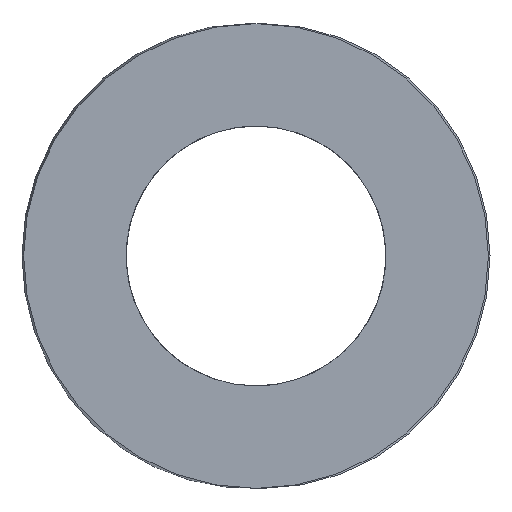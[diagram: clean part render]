
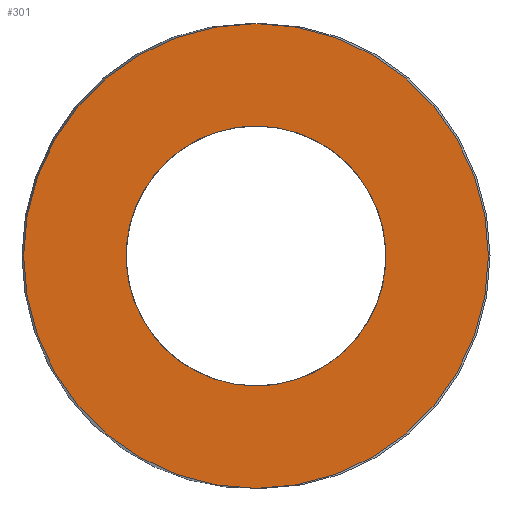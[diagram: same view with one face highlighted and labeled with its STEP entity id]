
A CAD part, left-side view. The second image highlights one B-rep face of the part: STEP entity #301.
In plain terms, the highlighted planar face has unit normal (-1, 0, 0).
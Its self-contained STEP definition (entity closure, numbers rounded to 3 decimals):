
#63=CARTESIAN_POINT('Vertex',(0.,12.25,0.)) ;
#77=CARTESIAN_POINT('Vertex',(0.,-12.25,0.)) ;
#80=CARTESIAN_POINT('Axis2P3D Location',(0.,0.,0.)) ;
#97=CARTESIAN_POINT('Axis2P3D Location',(0.,0.,0.)) ;
#232=CARTESIAN_POINT('Axis2P3D Location',(0.,6.125,0.)) ;
#242=CARTESIAN_POINT('Control Point',(0.,0.,-6.85)) ;
#243=CARTESIAN_POINT('Control Point',(0.,0.641,-6.85)) ;
#244=CARTESIAN_POINT('Control Point',(0.,1.282,-6.775)) ;
#245=CARTESIAN_POINT('Control Point',(0.,1.912,-6.625)) ;
#246=CARTESIAN_POINT('Control Point',(0.,3.124,-6.181)) ;
#247=CARTESIAN_POINT('Control Point',(0.,4.2,-5.468)) ;
#248=CARTESIAN_POINT('Control Point',(0.,4.694,-5.051)) ;
#249=CARTESIAN_POINT('Control Point',(0.,5.576,-4.107)) ;
#250=CARTESIAN_POINT('Control Point',(0.,6.215,-2.986)) ;
#251=CARTESIAN_POINT('Control Point',(0.,6.468,-2.39)) ;
#252=CARTESIAN_POINT('Control Point',(0.,6.829,-1.151)) ;
#253=CARTESIAN_POINT('Control Point',(0.,6.894,0.139)) ;
#254=CARTESIAN_POINT('Control Point',(0.,6.851,0.784)) ;
#255=CARTESIAN_POINT('Control Point',(0.,6.614,2.053)) ;
#256=CARTESIAN_POINT('Control Point',(0.,6.09,3.233)) ;
#257=CARTESIAN_POINT('Control Point',(0.,5.76,3.79)) ;
#258=CARTESIAN_POINT('Control Point',(0.,4.977,4.816)) ;
#259=CARTESIAN_POINT('Control Point',(0.,3.977,5.633)) ;
#260=CARTESIAN_POINT('Control Point',(0.,3.432,5.981)) ;
#261=CARTESIAN_POINT('Control Point',(0.,2.436,6.462)) ;
#262=CARTESIAN_POINT('Control Point',(0.,1.368,6.735)) ;
#263=CARTESIAN_POINT('Control Point',(0.,0.915,6.812)) ;
#264=CARTESIAN_POINT('Control Point',(0.,0.457,6.85)) ;
#265=CARTESIAN_POINT('Control Point',(0.,0.,6.85)) ;
#266=CARTESIAN_POINT('Vertex',(0.,0.,-6.85)) ;
#268=CARTESIAN_POINT('Vertex',(0.,0.,6.85)) ;
#272=CARTESIAN_POINT('Control Point',(0.,0.,6.85)) ;
#273=CARTESIAN_POINT('Control Point',(0.,-0.641,6.85)) ;
#274=CARTESIAN_POINT('Control Point',(0.,-1.282,6.775)) ;
#275=CARTESIAN_POINT('Control Point',(0.,-1.912,6.625)) ;
#276=CARTESIAN_POINT('Control Point',(0.,-3.124,6.181)) ;
#277=CARTESIAN_POINT('Control Point',(0.,-4.2,5.468)) ;
#278=CARTESIAN_POINT('Control Point',(0.,-4.694,5.051)) ;
#279=CARTESIAN_POINT('Control Point',(0.,-5.576,4.107)) ;
#280=CARTESIAN_POINT('Control Point',(0.,-6.215,2.986)) ;
#281=CARTESIAN_POINT('Control Point',(0.,-6.468,2.39)) ;
#282=CARTESIAN_POINT('Control Point',(0.,-6.829,1.151)) ;
#283=CARTESIAN_POINT('Control Point',(0.,-6.894,-0.139)) ;
#284=CARTESIAN_POINT('Control Point',(0.,-6.851,-0.784)) ;
#285=CARTESIAN_POINT('Control Point',(0.,-6.614,-2.053)) ;
#286=CARTESIAN_POINT('Control Point',(0.,-6.09,-3.233)) ;
#287=CARTESIAN_POINT('Control Point',(0.,-5.76,-3.79)) ;
#288=CARTESIAN_POINT('Control Point',(0.,-4.977,-4.816)) ;
#289=CARTESIAN_POINT('Control Point',(0.,-3.977,-5.633)) ;
#290=CARTESIAN_POINT('Control Point',(0.,-3.432,-5.981)) ;
#291=CARTESIAN_POINT('Control Point',(0.,-2.436,-6.462)) ;
#292=CARTESIAN_POINT('Control Point',(0.,-1.368,-6.735)) ;
#293=CARTESIAN_POINT('Control Point',(0.,-0.915,-6.812)) ;
#294=CARTESIAN_POINT('Control Point',(0.,-0.457,-6.85)) ;
#295=CARTESIAN_POINT('Control Point',(0.,0.,-6.85)) ;
#81=DIRECTION('Axis2P3D Direction',(1.,-0.,0.)) ;
#98=DIRECTION('Axis2P3D Direction',(1.,-0.,0.)) ;
#233=DIRECTION('Axis2P3D Direction',(-1.,0.,0.)) ;
#234=DIRECTION('Axis2P3D XDirection',(0.,1.,0.)) ;
#82=AXIS2_PLACEMENT_3D('Circle Axis2P3D',#80,#81,$) ;
#99=AXIS2_PLACEMENT_3D('Circle Axis2P3D',#97,#98,$) ;
#235=AXIS2_PLACEMENT_3D('Plane Axis2P3D',#232,#233,#234) ;
#238=ORIENTED_EDGE('',*,*,#84,.T.) ;
#239=ORIENTED_EDGE('',*,*,#101,.T.) ;
#298=ORIENTED_EDGE('',*,*,#270,.T.) ;
#299=ORIENTED_EDGE('',*,*,#296,.T.) ;
#300=FACE_BOUND('',#297,.T.) ;
#301=ADVANCED_FACE('392-B25-032',(#240,#300),#236,.T.) ;
#241=B_SPLINE_CURVE_WITH_KNOTS('',5,(#242,#243,#244,#245,#246,#247,#248,#249,#250,#251,#252,#253,#254,#255,#256,#257,#258,#259,#260,#261,#262,#263,#264,#265),.UNSPECIFIED.,.F.,.U.,(6,3,3,3,3,3,3,6),(0.,4.533,9.066,13.6,18.133,22.666,27.199,30.433),.UNSPECIFIED.) ;
#271=B_SPLINE_CURVE_WITH_KNOTS('',5,(#272,#273,#274,#275,#276,#277,#278,#279,#280,#281,#282,#283,#284,#285,#286,#287,#288,#289,#290,#291,#292,#293,#294,#295),.UNSPECIFIED.,.F.,.U.,(6,3,3,3,3,3,3,6),(0.,4.533,9.066,13.6,18.133,22.666,27.199,30.433),.UNSPECIFIED.) ;
#83=CIRCLE('generated circle',#82,12.25) ;
#100=CIRCLE('generated circle',#99,12.25) ;
#84=EDGE_CURVE('',#64,#78,#83,.F.) ;
#101=EDGE_CURVE('',#78,#64,#100,.F.) ;
#270=EDGE_CURVE('',#267,#269,#241,.T.) ;
#296=EDGE_CURVE('',#269,#267,#271,.T.) ;
#237=EDGE_LOOP('',(#238,#239)) ;
#297=EDGE_LOOP('',(#298,#299)) ;
#240=FACE_OUTER_BOUND('',#237,.T.) ;
#236=PLANE('Plane',#235) ;
#64=VERTEX_POINT('',#63) ;
#78=VERTEX_POINT('',#77) ;
#267=VERTEX_POINT('',#266) ;
#269=VERTEX_POINT('',#268) ;
